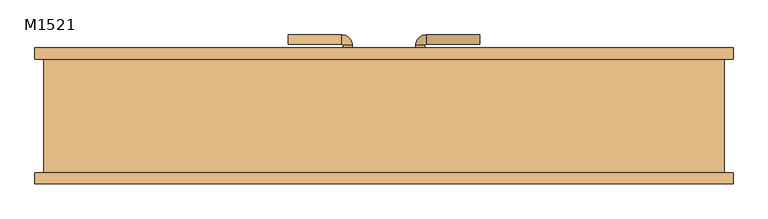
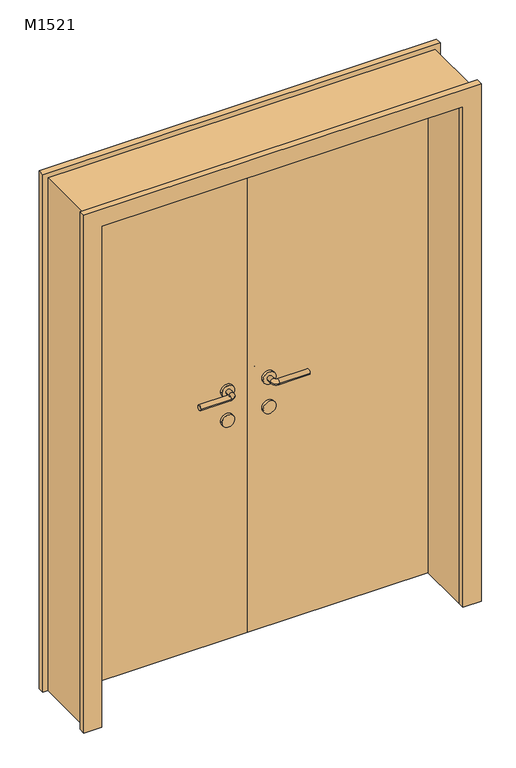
"""IFC4 building model written with IfcOpenShell, lengths in millimetres: door geometry, 双面嵌板木门 1 : M1521."""

from ifc_helpers import new_model, si_unit, point, frame, frame_2d, origin, origin_with_axes, place, context, project, spatial, polyline, circle_curve, ellipse_curve, trimmed, segment, composite_curve, outline, extrude, source, transform, mapped, element, save
from ifc_brep_helpers import plane_surface, cylinder_surface, revolved_surface, advanced_brep


def m1521_8034ee71(model_context):
    return source(origin(), model_context, "Body", "SolidModel", [
        extrude(outline(composite_curve([segment(trimmed(circle_curve(frame_2d((900.0, 80.0)), 25.0), [point((900.0, 105.0))], [point((900.0, 55.0))], False, "CARTESIAN"), True, "CONTINUOUS"), segment(trimmed(circle_curve(frame_2d((900.0, 80.0)), 25.0), [point((900.0, 55.0))], [point((900.0, 105.0))], False, "CARTESIAN"), True, "CONTINUOUS")], self_intersect=False)), frame((0.0, 125.0, 0.0), z_axis=(0.0, 1.0, 0.0), x_axis=(0.0, 0.0, 1.0)), (0.0, 0.0, 1.0), 10.0),
        extrude(outline(composite_curve([segment(trimmed(circle_curve(frame_2d((900.0, 80.0)), 25.0), [point((900.0, 105.0))], [point((900.0, 55.0))], False, "CARTESIAN"), True, "CONTINUOUS"), segment(trimmed(circle_curve(frame_2d((900.0, 80.0)), 25.0), [point((900.0, 55.0))], [point((900.0, 105.0))], False, "CARTESIAN"), True, "CONTINUOUS")], self_intersect=False)), frame((0.0, 75.0, 0.0), z_axis=(0.0, 1.0, 0.0), x_axis=(0.0, 0.0, 1.0)), (0.0, 0.0, 1.0), 10.0),
        advanced_brep(
        [(70.0, 135.0, 1020.0), (90.0, 135.0, 1020.0), (70.0, 155.6133551, 1020.0), (90.0, 155.6133551, 1020.0), (211.580964, 178.580964, 1020.0), (211.580964, 158.580964, 1020.0), (92.9676089, 158.580964, 1020.0), (92.9676089, 178.580964, 1020.0)],
        [
            (0, 1, circle_curve(frame((80.0, 135.0, 1020.0), z_axis=(0.0, -1.0, 0.0), x_axis=(1.0, 0.0, 0.0)), 10.0)),
            (1, 0, circle_curve(frame((80.0, 135.0, 1020.0), z_axis=(0.0, -1.0, 0.0), x_axis=(1.0, 0.0, 0.0)), 10.0)),
            (0, 2),
            (2, 3, circle_curve(frame((80.0, 155.6133551, 1020.0), z_axis=(0.0, -1.0, 0.0), x_axis=(1.0, 0.0, 0.0)), 10.0)),
            (3, 1),
            (3, 2, circle_curve(frame((80.0, 155.6133551, 1020.0), z_axis=(0.0, -1.0, 0.0), x_axis=(1.0, 0.0, 0.0)), 10.0)),
            (4, 5, circle_curve(frame((211.580964, 168.580964, 1020.0), z_axis=(1.0, 0.0, 0.0), x_axis=(0.0, -1.0, 0.0)), 10.0)),
            (5, 4, circle_curve(frame((211.580964, 168.580964, 1020.0), z_axis=(1.0, 0.0, 0.0), x_axis=(0.0, -1.0, 0.0)), 10.0)),
            (6, 7, circle_curve(frame((92.9676089, 168.580964, 1020.0), z_axis=(-1.0, 0.0, 0.0), x_axis=(0.0, -1.0, 0.0)), 10.0)),
            (7, 2, circle_curve(frame((92.9676089, 155.6133551, 1020.0), z_axis=(0.0, 0.0, 1.0), x_axis=(-1.0, 0.0, 0.0)), 22.9676089)),
            (3, 6, circle_curve(frame((92.9676089, 155.6133551, 1020.0), z_axis=(0.0, 0.0, -1.0), x_axis=(-1.0, 0.0, 0.0)), 2.9676089)),
            (7, 6, circle_curve(frame((92.9676089, 168.580964, 1020.0), z_axis=(-1.0, 0.0, 0.0), x_axis=(0.0, -1.0, 0.0)), 10.0)),
            (6, 5),
            (4, 7),
        ],
        [
            plane_surface(frame((80.0, 135.0, 900.0), z_axis=(0.0, -1.0, 0.0), x_axis=(0.0, 0.0, 1.0))),
            cylinder_surface(frame((80.0, 135.0, 1020.0), z_axis=(0.0, -1.0, 0.0), x_axis=(1.0, 0.0, 0.0)), 10.0),
            plane_surface(frame((211.580964, 168.580964, 900.0), z_axis=(1.0, 0.0, 0.0), x_axis=(0.0, 0.0, 1.0))),
            revolved_surface(trimmed(ellipse_curve(frame((80.0, 155.6133551, 1020.0), z_axis=(0.0, 1.0, 0.0), x_axis=(1.0, 0.0, 0.0)), 10.0, 10.0), [point((70.0, 155.6133551, 1020.0))], [point((90.0, 155.6133551, 1020.0))], True, "CARTESIAN"), (92.9676089, 155.6133551, 900.0), (0.0, 0.0, 1.0)),
            revolved_surface(trimmed(ellipse_curve(frame((80.0, 155.6133551, 1020.0), z_axis=(0.0, 1.0, 0.0), x_axis=(1.0, 0.0, 0.0)), 10.0, 10.0), [point((90.0, 155.6133551, 1020.0))], [point((70.0, 155.6133551, 1020.0))], True, "CARTESIAN"), (92.9676089, 155.6133551, 900.0), (0.0, 0.0, 1.0)),
            cylinder_surface(frame((92.9676089, 168.580964, 1020.0), z_axis=(-1.0, 0.0, 0.0), x_axis=(0.0, -1.0, 0.0)), 10.0),
        ],
        [
            (0, [[1, 2]]),
            (1, [[3, 4, 5, -1]]),
            (1, [[-5, 6, -3, -2]]),
            (2, [[7, 8]]),
            (3, [[9, 10, -6, 11]]),
            (4, [[12, -11, -4, -10]]),
            (5, [[13, -7, 14, -9]]),
            (5, [[-14, -8, -13, -12]]),
        ],
    ),
        extrude(outline(composite_curve([segment(trimmed(circle_curve(frame_2d((1020.0, 80.0)), 25.0), [point((1020.0, 105.0))], [point((1020.0, 55.0))], False, "CARTESIAN"), True, "CONTINUOUS"), segment(trimmed(circle_curve(frame_2d((1020.0, 80.0)), 25.0), [point((1020.0, 55.0))], [point((1020.0, 105.0))], False, "CARTESIAN"), True, "CONTINUOUS")], self_intersect=False)), frame((0.0, 125.0, 0.0), z_axis=(0.0, 1.0, 0.0), x_axis=(0.0, 0.0, 1.0)), (0.0, 0.0, 1.0), 10.0),
        advanced_brep(
        [(90.0, 75.0, 1020.0), (70.0, 75.0, 1020.0), (70.0, 54.386645, 1020.0), (90.0, 54.386645, 1020.0), (211.580964, 51.419036, 1020.0), (211.580964, 31.419036, 1020.0), (92.9676089, 31.419036, 1020.0), (92.9676089, 51.419036, 1020.0)],
        [
            (0, 1, circle_curve(frame((80.0, 75.0, 1020.0), z_axis=(0.0, 1.0, 0.0), x_axis=(-1.0, 0.0, 0.0)), 10.0)),
            (1, 0, circle_curve(frame((80.0, 75.0, 1020.0), z_axis=(0.0, 1.0, 0.0), x_axis=(-1.0, 0.0, 0.0)), 10.0)),
            (1, 2),
            (2, 3, circle_curve(frame((80.0, 54.386645, 1020.0), z_axis=(0.0, 1.0, 0.0), x_axis=(-1.0, 0.0, 0.0)), 10.0)),
            (3, 0),
            (3, 2, circle_curve(frame((80.0, 54.386645, 1020.0), z_axis=(0.0, 1.0, 0.0), x_axis=(-1.0, 0.0, 0.0)), 10.0)),
            (4, 5, circle_curve(frame((211.580964, 41.419036, 1020.0), z_axis=(1.0, 0.0, 0.0), x_axis=(0.0, -1.0, 0.0)), 10.0)),
            (5, 4, circle_curve(frame((211.580964, 41.419036, 1020.0), z_axis=(1.0, 0.0, 0.0), x_axis=(0.0, -1.0, 0.0)), 10.0)),
            (6, 7, circle_curve(frame((92.9676089, 41.419036, 1020.0), z_axis=(-1.0, 0.0, 0.0), x_axis=(0.0, -1.0, 0.0)), 10.0)),
            (7, 3, circle_curve(frame((92.9676089, 54.386645, 1020.0), z_axis=(0.0, 0.0, -1.0), x_axis=(-1.0, 0.0, 0.0)), 2.9676089)),
            (2, 6, circle_curve(frame((92.9676089, 54.386645, 1020.0), z_axis=(0.0, 0.0, 1.0), x_axis=(-1.0, 0.0, 0.0)), 22.9676089)),
            (7, 6, circle_curve(frame((92.9676089, 41.419036, 1020.0), z_axis=(-1.0, 0.0, 0.0), x_axis=(0.0, -1.0, 0.0)), 10.0)),
            (6, 5),
            (4, 7),
        ],
        [
            plane_surface(frame((80.0, 75.0, 900.0), z_axis=(0.0, 1.0, 0.0), x_axis=(0.0, 0.0, 1.0))),
            cylinder_surface(frame((80.0, 75.0, 1020.0), z_axis=(0.0, 1.0, 0.0), x_axis=(-1.0, 0.0, 0.0)), 10.0),
            plane_surface(frame((211.580964, 41.419036, 900.0), z_axis=(1.0, 0.0, 0.0), x_axis=(0.0, 0.0, 1.0))),
            revolved_surface(trimmed(ellipse_curve(frame((80.0, 54.386645, 1020.0), z_axis=(0.0, -1.0, 0.0), x_axis=(-1.0, 0.0, 0.0)), 10.0, 10.0), [point((90.0, 54.386645, 1020.0))], [point((70.0, 54.386645, 1020.0))], True, "CARTESIAN"), (92.9676089, 54.386645, 900.0), (0.0, 0.0, -1.0)),
            revolved_surface(trimmed(ellipse_curve(frame((80.0, 54.386645, 1020.0), z_axis=(0.0, -1.0, 0.0), x_axis=(-1.0, 0.0, 0.0)), 10.0, 10.0), [point((70.0, 54.386645, 1020.0))], [point((90.0, 54.386645, 1020.0))], True, "CARTESIAN"), (92.9676089, 54.386645, 900.0), (0.0, 0.0, -1.0)),
            cylinder_surface(frame((92.9676089, 41.419036, 1020.0), z_axis=(-1.0, 0.0, 0.0), x_axis=(0.0, -1.0, 0.0)), 10.0),
        ],
        [
            (0, [[1, 2]]),
            (1, [[3, 4, 5, -2]]),
            (1, [[-5, 6, -3, -1]]),
            (2, [[7, 8]]),
            (3, [[9, 10, -4, 11]]),
            (4, [[12, -11, -6, -10]]),
            (5, [[13, -7, 14, -9]]),
            (5, [[-14, -8, -13, -12]]),
        ],
    ),
        extrude(outline(composite_curve([segment(trimmed(circle_curve(frame_2d((1020.0, 80.0)), 25.0), [point((1020.0, 105.0))], [point((1020.0, 55.0))], False, "CARTESIAN"), True, "CONTINUOUS"), segment(trimmed(circle_curve(frame_2d((1020.0, 80.0)), 25.0), [point((1020.0, 55.0))], [point((1020.0, 105.0))], False, "CARTESIAN"), True, "CONTINUOUS")], self_intersect=False)), frame((0.0, 75.0, 0.0), z_axis=(0.0, 1.0, 0.0), x_axis=(0.0, 0.0, 1.0)), (0.0, 0.0, 1.0), 10.0),
        extrude(outline(composite_curve([segment(trimmed(circle_curve(frame_2d((900.0, -80.0)), 25.0), [point((900.0, -105.0))], [point((900.0, -55.0))], False, "CARTESIAN"), True, "CONTINUOUS"), segment(trimmed(circle_curve(frame_2d((900.0, -80.0)), 25.0), [point((900.0, -55.0))], [point((900.0, -105.0))], False, "CARTESIAN"), True, "CONTINUOUS")], self_intersect=False)), frame((0.0, 125.0, 0.0), z_axis=(0.0, 1.0, 0.0), x_axis=(0.0, 0.0, 1.0)), (0.0, 0.0, 1.0), 10.0),
        extrude(outline(composite_curve([segment(trimmed(circle_curve(frame_2d((900.0, -80.0)), 25.0), [point((900.0, -105.0))], [point((900.0, -55.0))], False, "CARTESIAN"), True, "CONTINUOUS"), segment(trimmed(circle_curve(frame_2d((900.0, -80.0)), 25.0), [point((900.0, -55.0))], [point((900.0, -105.0))], False, "CARTESIAN"), True, "CONTINUOUS")], self_intersect=False)), frame((0.0, 75.0, 0.0), z_axis=(0.0, 1.0, 0.0), x_axis=(0.0, 0.0, 1.0)), (0.0, 0.0, 1.0), 10.0),
        advanced_brep(
        [(-70.0, 135.0, 1020.0), (-90.0, 135.0, 1020.0), (-90.0, 155.6133551, 1020.0), (-70.0, 155.6133551, 1020.0), (-211.580964, 178.580964, 1020.0), (-211.580964, 158.580964, 1020.0), (-92.9676089, 158.580964, 1020.0), (-92.9676089, 178.580964, 1020.0)],
        [
            (0, 1, circle_curve(frame((-80.0, 135.0, 1020.0), z_axis=(0.0, -1.0, 0.0), x_axis=(-1.0, 0.0, 0.0)), 10.0)),
            (1, 0, circle_curve(frame((-80.0, 135.0, 1020.0), z_axis=(0.0, -1.0, 0.0), x_axis=(-1.0, 0.0, 0.0)), 10.0)),
            (1, 2),
            (2, 3, circle_curve(frame((-80.0, 155.6133551, 1020.0), z_axis=(0.0, -1.0, 0.0), x_axis=(-1.0, 0.0, 0.0)), 10.0)),
            (3, 0),
            (3, 2, circle_curve(frame((-80.0, 155.6133551, 1020.0), z_axis=(0.0, -1.0, 0.0), x_axis=(-1.0, 0.0, 0.0)), 10.0)),
            (4, 5, circle_curve(frame((-211.580964, 168.580964, 1020.0), z_axis=(-1.0, 0.0, 0.0), x_axis=(0.0, -1.0, 0.0)), 10.0)),
            (5, 4, circle_curve(frame((-211.580964, 168.580964, 1020.0), z_axis=(-1.0, 0.0, 0.0), x_axis=(0.0, -1.0, 0.0)), 10.0)),
            (6, 2, circle_curve(frame((-92.9676089, 155.6133551, 1020.0), z_axis=(0.0, 0.0, -1.0), x_axis=(1.0, 0.0, 0.0)), 2.9676089)),
            (3, 7, circle_curve(frame((-92.9676089, 155.6133551, 1020.0), z_axis=(0.0, 0.0, 1.0), x_axis=(1.0, 0.0, 0.0)), 22.9676089)),
            (7, 6, circle_curve(frame((-92.9676089, 168.580964, 1020.0), z_axis=(1.0, 0.0, 0.0), x_axis=(0.0, -1.0, 0.0)), 10.0)),
            (6, 7, circle_curve(frame((-92.9676089, 168.580964, 1020.0), z_axis=(1.0, 0.0, 0.0), x_axis=(0.0, -1.0, 0.0)), 10.0)),
            (7, 4),
            (5, 6),
        ],
        [
            plane_surface(frame((-80.0, 135.0, 900.0), z_axis=(0.0, -1.0, 0.0), x_axis=(0.0, 0.0, 1.0))),
            cylinder_surface(frame((-80.0, 135.0, 1020.0), z_axis=(0.0, -1.0, 0.0), x_axis=(-1.0, 0.0, 0.0)), 10.0),
            plane_surface(frame((-211.580964, 168.580964, 900.0), z_axis=(-1.0, 0.0, 0.0), x_axis=(0.0, 0.0, 1.0))),
            revolved_surface(trimmed(ellipse_curve(frame((-80.0, 155.6133551, 1020.0), z_axis=(0.0, -1.0, 0.0), x_axis=(-1.0, 0.0, 0.0)), 10.0, 10.0), [point((-70.0, 155.6133551, 1020.0))], [point((-90.0, 155.6133551, 1020.0))], True, "CARTESIAN"), (-92.9676089, 155.6133551, 900.0), (0.0, 0.0, 1.0)),
            revolved_surface(trimmed(ellipse_curve(frame((-80.0, 155.6133551, 1020.0), z_axis=(0.0, -1.0, 0.0), x_axis=(-1.0, 0.0, 0.0)), 10.0, 10.0), [point((-90.0, 155.6133551, 1020.0))], [point((-70.0, 155.6133551, 1020.0))], True, "CARTESIAN"), (-92.9676089, 155.6133551, 900.0), (0.0, 0.0, 1.0)),
            cylinder_surface(frame((-92.9676089, 168.580964, 1020.0), z_axis=(1.0, 0.0, 0.0), x_axis=(0.0, -1.0, 0.0)), 10.0),
        ],
        [
            (0, [[1, 2]]),
            (1, [[-2, 3, 4, 5]]),
            (1, [[-1, -5, 6, -3]]),
            (2, [[7, 8]]),
            (3, [[9, -6, 10, 11]]),
            (4, [[-10, -4, -9, 12]]),
            (5, [[-11, 13, -8, 14]]),
            (5, [[-12, -14, -7, -13]]),
        ],
    ),
        extrude(outline(composite_curve([segment(trimmed(circle_curve(frame_2d((1020.0, -80.0)), 25.0), [point((1020.0, -105.0))], [point((1020.0, -55.0))], False, "CARTESIAN"), True, "CONTINUOUS"), segment(trimmed(circle_curve(frame_2d((1020.0, -80.0)), 25.0), [point((1020.0, -55.0))], [point((1020.0, -105.0))], False, "CARTESIAN"), True, "CONTINUOUS")], self_intersect=False)), frame((0.0, 125.0, 0.0), z_axis=(0.0, 1.0, 0.0), x_axis=(0.0, 0.0, 1.0)), (0.0, 0.0, 1.0), 10.0),
        advanced_brep(
        [(-90.0, 75.0, 1020.0), (-70.0, 75.0, 1020.0), (-90.0, 54.386645, 1020.0), (-70.0, 54.386645, 1020.0), (-211.580964, 51.419036, 1020.0), (-211.580964, 31.419036, 1020.0), (-92.9676089, 31.419036, 1020.0), (-92.9676089, 51.419036, 1020.0)],
        [
            (0, 1, circle_curve(frame((-80.0, 75.0, 1020.0), z_axis=(0.0, 1.0, 0.0), x_axis=(1.0, 0.0, 0.0)), 10.0)),
            (1, 0, circle_curve(frame((-80.0, 75.0, 1020.0), z_axis=(0.0, 1.0, 0.0), x_axis=(1.0, 0.0, 0.0)), 10.0)),
            (0, 2),
            (2, 3, circle_curve(frame((-80.0, 54.386645, 1020.0), z_axis=(0.0, 1.0, 0.0), x_axis=(1.0, 0.0, 0.0)), 10.0)),
            (3, 1),
            (3, 2, circle_curve(frame((-80.0, 54.386645, 1020.0), z_axis=(0.0, 1.0, 0.0), x_axis=(1.0, 0.0, 0.0)), 10.0)),
            (4, 5, circle_curve(frame((-211.580964, 41.419036, 1020.0), z_axis=(-1.0, 0.0, 0.0), x_axis=(0.0, -1.0, 0.0)), 10.0)),
            (5, 4, circle_curve(frame((-211.580964, 41.419036, 1020.0), z_axis=(-1.0, 0.0, 0.0), x_axis=(0.0, -1.0, 0.0)), 10.0)),
            (6, 3, circle_curve(frame((-92.9676089, 54.386645, 1020.0), z_axis=(0.0, 0.0, 1.0), x_axis=(1.0, 0.0, 0.0)), 22.9676089)),
            (2, 7, circle_curve(frame((-92.9676089, 54.386645, 1020.0), z_axis=(0.0, 0.0, -1.0), x_axis=(1.0, 0.0, 0.0)), 2.9676089)),
            (7, 6, circle_curve(frame((-92.9676089, 41.419036, 1020.0), z_axis=(1.0, 0.0, 0.0), x_axis=(0.0, -1.0, 0.0)), 10.0)),
            (6, 7, circle_curve(frame((-92.9676089, 41.419036, 1020.0), z_axis=(1.0, 0.0, 0.0), x_axis=(0.0, -1.0, 0.0)), 10.0)),
            (7, 4),
            (5, 6),
        ],
        [
            plane_surface(frame((-80.0, 75.0, 900.0), z_axis=(0.0, 1.0, 0.0), x_axis=(0.0, 0.0, 1.0))),
            cylinder_surface(frame((-80.0, 75.0, 1020.0), z_axis=(0.0, 1.0, 0.0), x_axis=(1.0, 0.0, 0.0)), 10.0),
            plane_surface(frame((-211.580964, 41.419036, 900.0), z_axis=(-1.0, 0.0, 0.0), x_axis=(0.0, 0.0, 1.0))),
            revolved_surface(trimmed(ellipse_curve(frame((-80.0, 54.386645, 1020.0), z_axis=(0.0, 1.0, 0.0), x_axis=(1.0, 0.0, 0.0)), 10.0, 10.0), [point((-90.0, 54.386645, 1020.0))], [point((-70.0, 54.386645, 1020.0))], True, "CARTESIAN"), (-92.9676089, 54.386645, 900.0), (0.0, 0.0, -1.0)),
            revolved_surface(trimmed(ellipse_curve(frame((-80.0, 54.386645, 1020.0), z_axis=(0.0, 1.0, 0.0), x_axis=(1.0, 0.0, 0.0)), 10.0, 10.0), [point((-70.0, 54.386645, 1020.0))], [point((-90.0, 54.386645, 1020.0))], True, "CARTESIAN"), (-92.9676089, 54.386645, 900.0), (0.0, 0.0, -1.0)),
            cylinder_surface(frame((-92.9676089, 41.419036, 1020.0), z_axis=(1.0, 0.0, 0.0), x_axis=(0.0, -1.0, 0.0)), 10.0),
        ],
        [
            (0, [[1, 2]]),
            (1, [[-1, 3, 4, 5]]),
            (1, [[-2, -5, 6, -3]]),
            (2, [[7, 8]]),
            (3, [[9, -4, 10, 11]]),
            (4, [[-10, -6, -9, 12]]),
            (5, [[-11, 13, -8, 14]]),
            (5, [[-12, -14, -7, -13]]),
        ],
    ),
        extrude(outline(composite_curve([segment(trimmed(circle_curve(frame_2d((1020.0, -80.0)), 25.0), [point((1020.0, -105.0))], [point((1020.0, -55.0))], False, "CARTESIAN"), True, "CONTINUOUS"), segment(trimmed(circle_curve(frame_2d((1020.0, -80.0)), 25.0), [point((1020.0, -55.0))], [point((1020.0, -105.0))], False, "CARTESIAN"), True, "CONTINUOUS")], self_intersect=False)), frame((0.0, 75.0, 0.0), z_axis=(0.0, 1.0, 0.0), x_axis=(0.0, 0.0, 1.0)), (0.0, 0.0, 1.0), 10.0),
        extrude(outline(polyline([(0.0, 770.0), (2120.0, 770.0), (2120.0, -770.0), (0.0, -770.0), (0.0, -700.0), (2050.0, -700.0), (2050.0, 700.0), (0.0, 700.0), (0.0, 770.0)])), frame((0.0, 125.0, 0.0), z_axis=(0.0, 1.0, 0.0), x_axis=(0.0, 0.0, 1.0)), (0.0, 0.0, 1.0), 25.0),
        extrude(outline(polyline([(2120.0, 770.0), (2120.0, -770.0), (0.0, -770.0), (0.0, -700.0), (2050.0, -700.0), (2050.0, 700.0), (0.0, 700.0), (0.0, 770.0), (2120.0, 770.0)])), frame((0.0, -150.0, 0.0), z_axis=(0.0, 1.0, 0.0), x_axis=(0.0, 0.0, 1.0)), (0.0, 0.0, 1.0), 25.0),
        extrude(outline(polyline([(700.0, 85.0), (0.0, 85.0), (0.0, 125.0), (700.0, 125.0), (700.0, 85.0)])), origin_with_axes(), (0.0, 0.0, 1.0), 2050.0),
        extrude(outline(polyline([(0.0, 85.0), (-700.0, 85.0), (-700.0, 125.0), (0.0, 125.0), (0.0, 85.0)])), origin_with_axes(), (0.0, 0.0, 1.0), 2050.0),
        extrude(outline(polyline([(2100.0, -750.0), (0.0, -750.0), (0.0, -700.0), (2050.0, -700.0), (2050.0, 700.0), (0.0, 700.0), (0.0, 750.0), (2100.0, 750.0), (2100.0, -750.0)])), frame((0.0, -125.0, 0.0), z_axis=(0.0, 1.0, 0.0), x_axis=(0.0, 0.0, 1.0)), (0.0, 0.0, 1.0), 250.0),
    ])


if __name__ == "__main__":
    model = new_model("IFC4")
    model_context = context("Model", 3, world=origin())
    ifc_project = project(units=[si_unit("LENGTHUNIT", "METRE", prefix="MILLI")], contexts=[model_context])
    site = spatial("IfcSite", under=ifc_project)
    building = spatial("IfcBuilding", under=site)
    placement = place(None, origin())
    m1521_shape = m1521_8034ee71(model_context)
    element("IfcDoor", 1, ObjectType="双面嵌板木门 1 : M1521", at=placement, inside=building, context=model_context, shape_type="MappedRepresentation", body=[
        mapped(m1521_shape, transform((0.0, 0.0, 0.0), x_axis=(1.0, 0.0, 0.0), y_axis=(0.0, 1.0, 0.0), z_axis=(0.0, 0.0, 1.0))),
    ])
    save(model, "model.ifc")
